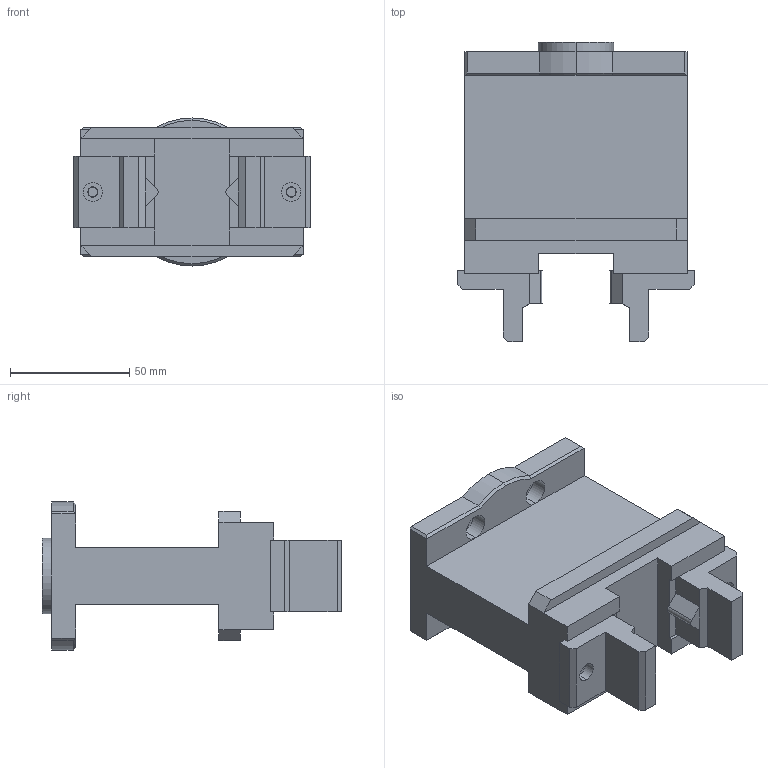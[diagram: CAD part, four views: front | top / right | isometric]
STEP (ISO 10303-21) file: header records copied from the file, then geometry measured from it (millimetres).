
FILE_DESCRIPTION (( 'STEP AP214' ), '1' );
FILE_NAME ('机器人工具手---产品组装.STEP', '2023-03-01T05:33:55', ( 'Windows User' ), ( 'P R C' ), 'SwSTEP 2.0', 'SolidWorks 2020', '' );
FILE_SCHEMA (( 'AUTOMOTIVE_DESIGN' ));
Length unit declared in the file: millimetre
Products named in the file (5): Toyo____.STEP; Finger.STEP; 机器人工具手---产品组装.STEP; 机器人工具手---产品组装; ____.STEP
Assembly tree (5 placements, depth 4):
  机器人工具手---产品组装
    机器人工具手---产品组装.STEP
      Toyo____.STEP
        ____.STEP
      Finger.STEP  x2
Bounding box: 99 x 125.5 x 62 mm (x, y, z)
Volume: 300812.9 mm3; surface area: 50242.8 mm2
Topology: 3 solids, 3 shells, 129 faces, 319 edges, 207 vertices
Faces by surface type: plane 87, cylinder 39, cone 3
Entity records: 3343 total; most frequent: DIRECTION 565, CARTESIAN_POINT 564, ORIENTED_EDGE 528, EDGE_CURVE 264, VECTOR 189, LINE 189, AXIS2_PLACEMENT_3D 188, VERTEX_POINT 171
